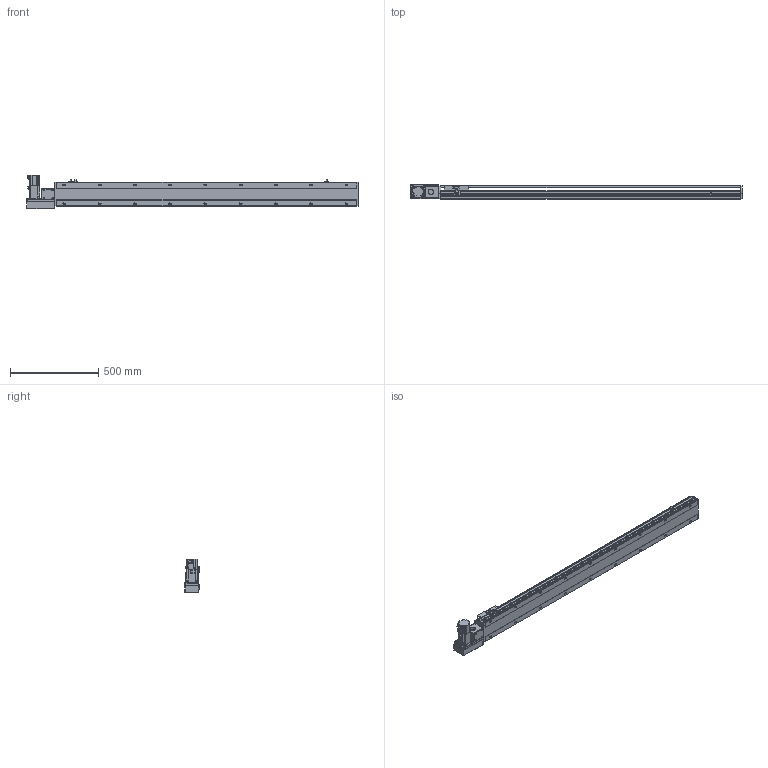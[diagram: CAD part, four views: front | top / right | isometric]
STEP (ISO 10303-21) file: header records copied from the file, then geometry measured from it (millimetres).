
FILE_DESCRIPTION( ( 'STEP AP214' ), '1' );
FILE_NAME( 'x:/temp/worker_27/temp/exporttempdir_6708_301_cySRv/format_0/PBS140-P40-S1450-L-T40-C1-N(0).stp', '2022-06-06T01:02:20', ( 'License CC BY-ND 4.0' ), ( 'CADENAS' ), ' ', 'PARTsolutions', ' ' );
FILE_SCHEMA( ( 'AUTOMOTIVE_DESIGN { 1 0 10303 214 1 1 1 1 }' ) );
Length unit declared in the file: millimetre
Products named in the file (7): PBS140-P40-S1450-L-T40-C1-N(0); _PBS140-S1450()_body; _PBS140T-L_motors; _T40-p1; _PBS140_sliser; _PBS140_plant; _PBS140_sensor
Assembly tree (8 placements, depth 2):
  PBS140-P40-S1450-L-T40-C1-N(0)
    _PBS140-S1450()_body
    _PBS140T-L_motors
    _T40-p1
    _PBS140_sliser
    _PBS140_plant
    _PBS140_sensor  x3
Bounding box: 1883 x 80.5 x 189.7 mm (x, y, z)
Volume: 8400643.8 mm3; surface area: 1451204.8 mm2
Topology: 8 solids, 8 shells, 1091 faces, 2876 edges, 1879 vertices
Faces by surface type: plane 698, cylinder 339, cone 44, sphere 8, torus 2
Full cylindrical faces by diameter (mm): 3.242 x4, 4 x2, 4.134 x4, 4.4 x8, 4.5 x2, 4.8 x4, 4.917 x26, 5.5 x7, 6 x2, 7 x20, 7.5 x8, 8 x12, 8.5 x4, 10.5 x18, 14 x1, 30 x2, 50 x2
Entity records: 39931 total; most frequent: CARTESIAN_POINT 6419, DIRECTION 5267, ORIENTED_EDGE 4972, EDGE_CURVE 2486, AXIS2_PLACEMENT_3D 1837, VERTEX_POINT 1725, LINE 1593, VECTOR 1593
